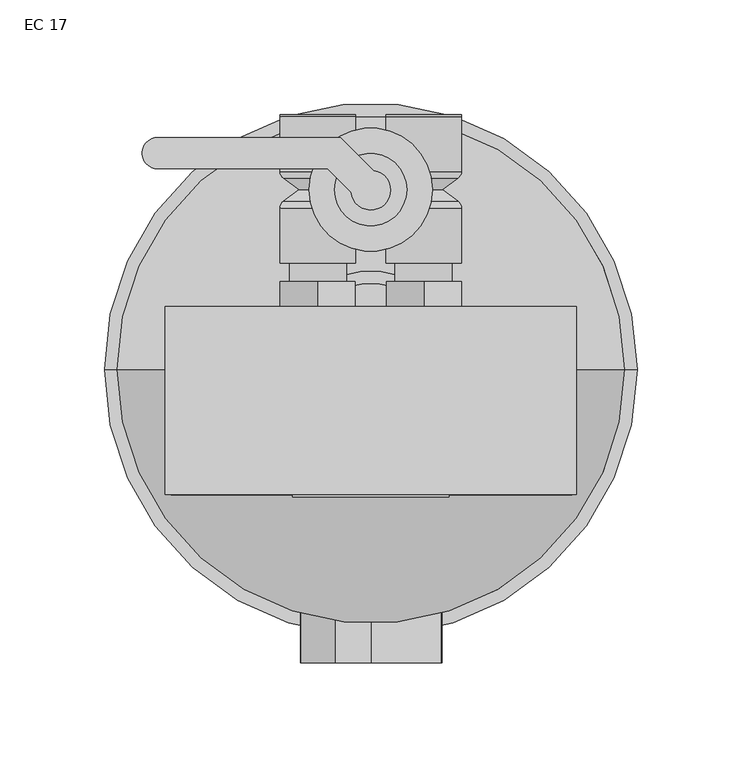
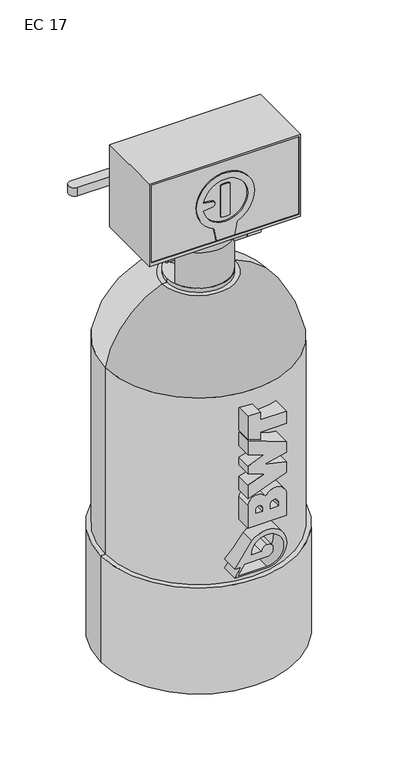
"""IFC4 building model written with IfcOpenShell, lengths in millimetres: flow terminal geometry, BWT_EC : EC 17."""

from ifc_helpers import new_model, si_unit, point, frame, frame_2d, origin, place, context, project, spatial, polyline, circle_curve, ellipse_curve, trimmed, segment, composite_curve, outline, extrude, faceted_brep, source, transform, mapped, element, save
from ifc_brep_helpers import plane_surface, cylinder_surface, revolved_surface, advanced_brep


def ec_17_c5b48052(model_context):
    return source(origin(), model_context, "Body", "SolidModel", [
        advanced_brep(
        [(-25.4198693, 51.0, 526.3500273), (-43.4198693, 51.0, 526.3500273), (-7.4198693, 51.0, 526.3500273), (-7.4198693, 94.749277, 526.3500273), (-43.4198693, 94.749277, 526.3500273), (-43.4198693, 121.0, 526.3500273), (-7.4198693, 121.0, 526.3500273), (-9.0198693, 91.549277, 526.3500273), (-41.8198693, 91.549277, 526.3500273), (-16.4189054, 86.0, 526.3500273), (-34.4208333, 86.0, 526.3500273), (-9.0198693, 80.450723, 526.3500273), (-41.8198693, 80.450723, 526.3500273), (-7.4198693, 77.250723, 526.3500273), (-43.4198693, 77.250723, 526.3500273), (-43.4198693, 122.0, 526.3500273), (-7.4198693, 122.0, 526.3500273)],
        [
            (0, 1),
            (1, 2, circle_curve(frame((-25.4198693, 51.0, 526.3500273), z_axis=(0.0, -1.0, 0.0), x_axis=(-1.0, 0.0, 0.0)), 18.0)),
            (2, 0),
            (2, 1, circle_curve(frame((-25.4198693, 51.0, 526.3500273), z_axis=(0.0, -1.0, 0.0), x_axis=(-1.0, 0.0, 0.0)), 18.0)),
            (3, 4, circle_curve(frame((-25.4198693, 94.749277, 526.3500273), z_axis=(0.0, 1.0, 0.0), x_axis=(-1.0, 0.0, 0.0)), 18.0)),
            (4, 5),
            (5, 6, circle_curve(frame((-25.4198693, 121.0, 526.3500273), z_axis=(0.0, -1.0, 0.0), x_axis=(-1.0, 0.0, 0.0)), 18.0)),
            (6, 3),
            (4, 3, circle_curve(frame((-25.4198693, 94.749277, 526.3500273), z_axis=(0.0, 1.0, 0.0), x_axis=(-1.0, 0.0, 0.0)), 18.0)),
            (6, 5, circle_curve(frame((-25.4198693, 121.0, 526.3500273), z_axis=(0.0, -1.0, 0.0), x_axis=(-1.0, 0.0, 0.0)), 18.0)),
            (3, 7, circle_curve(frame((-11.4198693, 94.749277, 526.3500273), z_axis=(0.0, 0.0, -1.0), x_axis=(-1.0, 0.0, 0.0)), 4.0)),
            (7, 8, circle_curve(frame((-25.4198693, 91.549277, 526.3500273), z_axis=(0.0, 1.0, 0.0), x_axis=(-1.0, 0.0, 0.0)), 16.4)),
            (8, 4, circle_curve(frame((-39.4198693, 94.749277, 526.3500273), z_axis=(0.0, 0.0, -1.0), x_axis=(1.0, 0.0, 0.0)), 4.0)),
            (8, 7, circle_curve(frame((-25.4198693, 91.549277, 526.3500273), z_axis=(0.0, 1.0, 0.0), x_axis=(-1.0, 0.0, 0.0)), 16.4)),
            (7, 9),
            (9, 10, circle_curve(frame((-25.4198693, 86.0, 526.3500273), z_axis=(0.0, 1.0, 0.0), x_axis=(-1.0, 0.0, 0.0)), 9.000964)),
            (10, 8),
            (10, 9, circle_curve(frame((-25.4198693, 86.0, 526.3500273), z_axis=(0.0, 1.0, 0.0), x_axis=(-1.0, 0.0, 0.0)), 9.000964)),
            (9, 11),
            (11, 12, circle_curve(frame((-25.4198693, 80.450723, 526.3500273), z_axis=(0.0, 1.0, 0.0), x_axis=(-1.0, 0.0, 0.0)), 16.4)),
            (12, 10),
            (12, 11, circle_curve(frame((-25.4198693, 80.450723, 526.3500273), z_axis=(0.0, 1.0, 0.0), x_axis=(-1.0, 0.0, 0.0)), 16.4)),
            (11, 13, circle_curve(frame((-11.4198693, 77.250723, 526.3500273), z_axis=(0.0, 0.0, -1.0), x_axis=(-1.0, 0.0, 0.0)), 4.0)),
            (13, 14, circle_curve(frame((-25.4198693, 77.250723, 526.3500273), z_axis=(0.0, 1.0, 0.0), x_axis=(-1.0, 0.0, 0.0)), 18.0)),
            (14, 12, circle_curve(frame((-39.4198693, 77.250723, 526.3500273), z_axis=(0.0, 0.0, -1.0), x_axis=(1.0, 0.0, 0.0)), 4.0)),
            (14, 13, circle_curve(frame((-25.4198693, 77.250723, 526.3500273), z_axis=(0.0, 1.0, 0.0), x_axis=(-1.0, 0.0, 0.0)), 18.0)),
            (1, 14),
            (13, 2),
            (15, 16, circle_curve(frame((-25.4198693, 122.0, 526.3500273), z_axis=(0.0, 1.0, 0.0), x_axis=(-1.0, 0.0, 0.0)), 18.0)),
            (16, 15, circle_curve(frame((-25.4198693, 122.0, 526.3500273), z_axis=(0.0, 1.0, 0.0), x_axis=(-1.0, 0.0, 0.0)), 18.0)),
            (15, 5),
            (6, 16),
        ],
        [
            plane_surface(frame((-25.4198693, 51.0, 526.3500273), z_axis=(0.0, -1.0, 0.0), x_axis=(-1.0, 0.0, 0.0))),
            cylinder_surface(frame((-25.4198693, 152.9623853, 526.3500273), z_axis=(0.0, -1.0, 0.0), x_axis=(-1.0, 0.0, 0.0)), 18.0),
            revolved_surface(trimmed(ellipse_curve(frame((-39.4198693, 94.749277, 526.3500273), z_axis=(0.0, 0.0, 1.0), x_axis=(1.0, 0.0, 0.0)), 4.0, 4.0), [point((-43.4198693, 94.749277, 526.3500273))], [point((-41.8198693, 91.549277, 526.3500273))], True, "CARTESIAN"), (-25.4198693, 152.9623853, 526.3500273), (0.0, -1.0, 0.0)),
            revolved_surface(polyline([(-41.8198693, 91.549277, 526.3500273), (-34.4208333, 86.0, 526.3500273)]), (-25.4198693, 152.9623853, 526.3500273), (0.0, -1.0, 0.0)),
            revolved_surface(polyline([(-34.4208333, 86.0, 526.3500273), (-41.8198693, 80.450723, 526.3500273)]), (-25.4198693, 152.9623853, 526.3500273), (0.0, -1.0, 0.0)),
            revolved_surface(trimmed(ellipse_curve(frame((-39.4198693, 77.250723, 526.3500273), z_axis=(0.0, 0.0, 1.0), x_axis=(1.0, 0.0, 0.0)), 4.0, 4.0), [point((-41.8198693, 80.450723, 526.3500273))], [point((-43.4198693, 77.250723, 526.3500273))], True, "CARTESIAN"), (-25.4198693, 152.9623853, 526.3500273), (0.0, -1.0, 0.0)),
            plane_surface(frame((-43.4198693, 122.0, 526.3500273), z_axis=(0.0, 1.0, 0.0), x_axis=(0.0, 0.0, 1.0))),
            cylinder_surface(frame((-25.4198693, 121.0, 526.3500273), z_axis=(0.0, 1.0, 0.0), x_axis=(-1.0, 0.0, 0.0)), 18.0),
        ],
        [
            (0, [[1, 2, 3]]),
            (0, [[-1, -3, 4]]),
            (1, [[5, 6, 7, 8]]),
            (1, [[-6, 9, -8, 10]]),
            (2, [[-5, 11, 12, 13]]),
            (2, [[-9, -13, 14, -11]]),
            (3, [[-12, 15, 16, 17]]),
            (3, [[-14, -17, 18, -15]]),
            (4, [[-16, 19, 20, 21]]),
            (4, [[-18, -21, 22, -19]]),
            (5, [[-20, 23, 24, 25]]),
            (5, [[-22, -25, 26, -23]]),
            (1, [[-2, 27, -24, 28]]),
            (1, [[-4, -28, -26, -27]]),
            (6, [[29, 30]]),
            (7, [[-29, 31, -10, 32]]),
            (7, [[-30, -32, -7, -31]]),
        ],
    ),
        advanced_brep(
        [(7.3803067, 122.0, 526.3500273), (43.3803067, 122.0, 526.3500273), (7.3803067, 121.0, 526.3500273), (43.3803067, 121.0, 526.3500273), (25.3803067, 51.0, 526.3500273), (7.3803067, 51.0, 526.3500273), (43.3803067, 51.0, 526.3500273), (43.3803067, 94.749277, 526.3500273), (7.3803067, 94.749277, 526.3500273), (41.7803067, 91.549277, 526.3500273), (8.9803067, 91.549277, 526.3500273), (34.3812707, 86.0, 526.3500273), (16.3793427, 86.0, 526.3500273), (41.7803067, 80.450723, 526.3500273), (8.9803067, 80.450723, 526.3500273), (43.3803067, 77.250723, 526.3500273), (7.3803067, 77.250723, 526.3500273)],
        [
            (0, 1, circle_curve(frame((25.3803067, 122.0, 526.3500273), z_axis=(0.0, 1.0, 0.0), x_axis=(-1.0, 0.0, 0.0)), 18.0)),
            (1, 0, circle_curve(frame((25.3803067, 122.0, 526.3500273), z_axis=(0.0, 1.0, 0.0), x_axis=(-1.0, 0.0, 0.0)), 18.0)),
            (0, 2),
            (2, 3, circle_curve(frame((25.3803067, 121.0, 526.3500273), z_axis=(0.0, 1.0, 0.0), x_axis=(-1.0, 0.0, 0.0)), 18.0)),
            (3, 1),
            (3, 2, circle_curve(frame((25.3803067, 121.0, 526.3500273), z_axis=(0.0, 1.0, 0.0), x_axis=(-1.0, 0.0, 0.0)), 18.0)),
            (4, 5),
            (5, 6, circle_curve(frame((25.3803067, 51.0, 526.3500273), z_axis=(0.0, -1.0, 0.0), x_axis=(-1.0, 0.0, 0.0)), 18.0)),
            (6, 4),
            (6, 5, circle_curve(frame((25.3803067, 51.0, 526.3500273), z_axis=(0.0, -1.0, 0.0), x_axis=(-1.0, 0.0, 0.0)), 18.0)),
            (7, 8, circle_curve(frame((25.3803067, 94.749277, 526.3500273), z_axis=(0.0, 1.0, 0.0), x_axis=(-1.0, 0.0, 0.0)), 18.0)),
            (8, 2),
            (3, 7),
            (8, 7, circle_curve(frame((25.3803067, 94.749277, 526.3500273), z_axis=(0.0, 1.0, 0.0), x_axis=(-1.0, 0.0, 0.0)), 18.0)),
            (7, 9, circle_curve(frame((39.3803067, 94.749277, 526.3500273), z_axis=(0.0, 0.0, -1.0), x_axis=(-1.0, 0.0, 0.0)), 4.0)),
            (9, 10, circle_curve(frame((25.3803067, 91.549277, 526.3500273), z_axis=(0.0, 1.0, 0.0), x_axis=(-1.0, 0.0, 0.0)), 16.4)),
            (10, 8, circle_curve(frame((11.3803067, 94.749277, 526.3500273), z_axis=(0.0, 0.0, -1.0), x_axis=(1.0, 0.0, 0.0)), 4.0)),
            (10, 9, circle_curve(frame((25.3803067, 91.549277, 526.3500273), z_axis=(0.0, 1.0, 0.0), x_axis=(-1.0, 0.0, 0.0)), 16.4)),
            (9, 11),
            (11, 12, circle_curve(frame((25.3803067, 86.0, 526.3500273), z_axis=(0.0, 1.0, 0.0), x_axis=(-1.0, 0.0, 0.0)), 9.000964)),
            (12, 10),
            (12, 11, circle_curve(frame((25.3803067, 86.0, 526.3500273), z_axis=(0.0, 1.0, 0.0), x_axis=(-1.0, 0.0, 0.0)), 9.000964)),
            (11, 13),
            (13, 14, circle_curve(frame((25.3803067, 80.450723, 526.3500273), z_axis=(0.0, 1.0, 0.0), x_axis=(-1.0, 0.0, 0.0)), 16.4)),
            (14, 12),
            (14, 13, circle_curve(frame((25.3803067, 80.450723, 526.3500273), z_axis=(0.0, 1.0, 0.0), x_axis=(-1.0, 0.0, 0.0)), 16.4)),
            (13, 15, circle_curve(frame((39.3803067, 77.250723, 526.3500273), z_axis=(0.0, 0.0, -1.0), x_axis=(-1.0, 0.0, 0.0)), 4.0)),
            (15, 16, circle_curve(frame((25.3803067, 77.250723, 526.3500273), z_axis=(0.0, 1.0, 0.0), x_axis=(-1.0, 0.0, 0.0)), 18.0)),
            (16, 14, circle_curve(frame((11.3803067, 77.250723, 526.3500273), z_axis=(0.0, 0.0, -1.0), x_axis=(1.0, 0.0, 0.0)), 4.0)),
            (16, 15, circle_curve(frame((25.3803067, 77.250723, 526.3500273), z_axis=(0.0, 1.0, 0.0), x_axis=(-1.0, 0.0, 0.0)), 18.0)),
            (5, 16),
            (15, 6),
        ],
        [
            plane_surface(frame((-43.4198693, 122.0, 526.3500273), z_axis=(0.0, 1.0, 0.0), x_axis=(0.0, 0.0, 1.0))),
            cylinder_surface(frame((25.3803067, 121.0, 526.3500273), z_axis=(0.0, 1.0, 0.0), x_axis=(-1.0, 0.0, 0.0)), 18.0),
            plane_surface(frame((25.3803067, 51.0, 526.3500273), z_axis=(0.0, -1.0, 0.0), x_axis=(-1.0, 0.0, 0.0))),
            cylinder_surface(frame((25.3803067, 152.9623853, 526.3500273), z_axis=(0.0, -1.0, 0.0), x_axis=(-1.0, 0.0, 0.0)), 18.0),
            revolved_surface(trimmed(ellipse_curve(frame((11.3803067, 94.749277, 526.3500273), z_axis=(0.0, 0.0, 1.0), x_axis=(1.0, 0.0, 0.0)), 4.0, 4.0), [point((7.3803067, 94.749277, 526.3500273))], [point((8.9803067, 91.549277, 526.3500273))], True, "CARTESIAN"), (25.3803067, 152.9623853, 526.3500273), (0.0, -1.0, 0.0)),
            revolved_surface(polyline([(8.9803067, 91.549277, 526.3500273), (16.3793427, 86.0, 526.3500273)]), (25.3803067, 152.9623853, 526.3500273), (0.0, -1.0, 0.0)),
            revolved_surface(polyline([(16.3793427, 86.0, 526.3500273), (8.9803067, 80.450723, 526.3500273)]), (25.3803067, 152.9623853, 526.3500273), (0.0, -1.0, 0.0)),
            revolved_surface(trimmed(ellipse_curve(frame((11.3803067, 77.250723, 526.3500273), z_axis=(0.0, 0.0, 1.0), x_axis=(1.0, 0.0, 0.0)), 4.0, 4.0), [point((8.9803067, 80.450723, 526.3500273))], [point((7.3803067, 77.250723, 526.3500273))], True, "CARTESIAN"), (25.3803067, 152.9623853, 526.3500273), (0.0, -1.0, 0.0)),
        ],
        [
            (0, [[1, 2]]),
            (1, [[-1, 3, 4, 5]]),
            (1, [[-2, -5, 6, -3]]),
            (2, [[7, 8, 9]]),
            (2, [[-7, -9, 10]]),
            (3, [[11, 12, -6, 13]]),
            (3, [[-12, 14, -13, -4]]),
            (4, [[-11, 15, 16, 17]]),
            (4, [[-14, -17, 18, -15]]),
            (5, [[-16, 19, 20, 21]]),
            (5, [[-18, -21, 22, -19]]),
            (6, [[-20, 23, 24, 25]]),
            (6, [[-22, -25, 26, -23]]),
            (7, [[-24, 27, 28, 29]]),
            (7, [[-26, -29, 30, -27]]),
            (3, [[-8, 31, -28, 32]]),
            (3, [[-10, -32, -30, -31]]),
        ],
    ),
        extrude(outline(polyline([(96.2035118, -58.8371146), (-95.5486478, -58.8371146), (-95.5486478, -54.8371146), (96.2035118, -54.8371146), (96.2035118, -58.8371146)])), frame((0.0, 0.0, 573.7939903), z_axis=(0.0, 0.0, 1.0), x_axis=(1.0, 0.0, 0.0)), (0.0, 0.0, 1.0), 106.7326791),
        extrude(outline(polyline([(12.4852191, 565.6531008), (15.7188089, 561.1206461), (13.4103829, 556.0540479), (7.868367, 555.5199043), (4.6347772, 560.052359), (6.9432033, 565.1189573), (12.4852191, 565.6531008)])), frame((61.9425108, 0.0, 0.0), z_axis=(1.0, 0.0, 0.0), x_axis=(0.0, 1.0, 0.0)), (0.0, 0.0, 1.0), 8.5574892),
        advanced_brep(
        [(33.3436037, 10.077573, 560.5846012), (33.3436037, 10.077573, 569.2365171), (33.3436037, 10.077573, 551.9326853), (61.9425108, 10.077573, 551.9326853), (61.9425108, 10.077573, 569.2365171), (61.9425108, 10.077573, 560.5846012)],
        [
            (0, 1),
            (1, 2, circle_curve(frame((33.3436037, 10.077573, 560.5846012), z_axis=(-1.0, 0.0, 0.0), x_axis=(0.0, 0.0, 1.0)), 8.6519159)),
            (2, 0),
            (2, 1, circle_curve(frame((33.3436037, 10.077573, 560.5846012), z_axis=(-1.0, 0.0, 0.0), x_axis=(0.0, 0.0, 1.0)), 8.6519159)),
            (3, 4, circle_curve(frame((61.9425108, 10.077573, 560.5846012), z_axis=(1.0, 0.0, 0.0), x_axis=(0.0, 0.0, 1.0)), 8.6519159)),
            (4, 5),
            (5, 3),
            (4, 3, circle_curve(frame((61.9425108, 10.077573, 560.5846012), z_axis=(1.0, 0.0, 0.0), x_axis=(0.0, 0.0, 1.0)), 8.6519159)),
            (1, 4),
            (3, 2),
        ],
        [
            plane_surface(frame((33.3436037, 10.077573, 560.5846012), z_axis=(-1.0, 0.0, 0.0), x_axis=(0.0, 0.0, 1.0))),
            plane_surface(frame((61.9425108, 10.077573, 560.5846012), z_axis=(1.0, 0.0, 0.0), x_axis=(0.0, 0.0, 1.0))),
            cylinder_surface(frame((49.1268561, 10.077573, 560.5846012), z_axis=(-1.0, 0.0, 0.0), x_axis=(0.0, 0.0, 1.0)), 8.6519159),
        ],
        [
            (0, [[1, 2, 3]]),
            (0, [[-3, 4, -1]]),
            (1, [[5, 6, 7]]),
            (1, [[8, -7, -6]]),
            (2, [[-2, 9, -5, 10]]),
            (2, [[-4, -10, -8, -9]]),
        ],
    ),
        advanced_brep(
        [(16.2211812, 10.077573, 560.5846012), (16.2211812, 10.077573, 565.5240423), (16.2211812, 10.077573, 555.6451601), (33.3436037, 10.077573, 555.6451601), (33.3436037, 10.077573, 565.5240423), (33.3436037, 10.077573, 560.5846012)],
        [
            (0, 1),
            (1, 2, circle_curve(frame((16.2211812, 10.077573, 560.5846012), z_axis=(-1.0, 0.0, 0.0), x_axis=(0.0, 0.0, 1.0)), 4.9394411)),
            (2, 0),
            (2, 1, circle_curve(frame((16.2211812, 10.077573, 560.5846012), z_axis=(-1.0, 0.0, 0.0), x_axis=(0.0, 0.0, 1.0)), 4.9394411)),
            (3, 4, circle_curve(frame((33.3436037, 10.077573, 560.5846012), z_axis=(1.0, 0.0, 0.0), x_axis=(0.0, 0.0, 1.0)), 4.9394411)),
            (4, 5),
            (5, 3),
            (4, 3, circle_curve(frame((33.3436037, 10.077573, 560.5846012), z_axis=(1.0, 0.0, 0.0), x_axis=(0.0, 0.0, 1.0)), 4.9394411)),
            (1, 4),
            (3, 2),
        ],
        [
            plane_surface(frame((16.2211812, 10.077573, 560.5846012), z_axis=(-1.0, 0.0, 0.0), x_axis=(0.0, 0.0, 1.0))),
            plane_surface(frame((33.3436037, 10.077573, 560.5846012), z_axis=(1.0, 0.0, 0.0), x_axis=(0.0, 0.0, 1.0))),
            cylinder_surface(frame((15.7194931, 10.077573, 560.5846012), z_axis=(-1.0, 0.0, 0.0), x_axis=(0.0, 0.0, 1.0)), 4.9394411),
        ],
        [
            (0, [[1, 2, 3]]),
            (0, [[-3, 4, -1]]),
            (1, [[5, 6, 7]]),
            (1, [[8, -7, -6]]),
            (2, [[-2, 9, -5, 10]]),
            (2, [[-4, -10, -8, -9]]),
        ],
    ),
        extrude(outline(composite_curve([segment(polyline([(593.0456784, -15.0), (575.4054042, -11.7297557), (575.4054042, 11.7297557), (593.0456784, 15.0)]), True, "CONTINUOUS"), segment(trimmed(circle_curve(frame_2d((627.4149961, 0.0)), 37.5), [point((593.0456784, 15.0))], [point((593.0456784, -15.0))], False, "CARTESIAN"), True, "CONTINUOUS")], self_intersect=False), holes=[composite_curve([segment(trimmed(circle_curve(frame_2d((627.4149961, 0.0)), 29.0), [point((653.9939352, 11.6))], [point((600.8360571, 11.6))], True, "CARTESIAN"), True, "CONTINUOUS"), segment(trimmed(circle_curve(frame_2d((627.4149961, 0.0)), 29.0), [point((600.8360571, 11.6))], [point((600.8360571, -11.6))], True, "CARTESIAN"), True, "CONTINUOUS"), segment(trimmed(circle_curve(frame_2d((627.4149961, 0.0)), 29.0), [point((600.8360571, -11.6))], [point((621.7488042, -28.4410666))], True, "CARTESIAN"), True, "CONTINUOUS"), segment(polyline([(621.7488042, -28.4410666), (623.4149961, -17.2034068)]), True, "CONTINUOUS"), segment(trimmed(circle_curve(frame_2d((627.4149961, -17.2034068)), 4.0), [point((623.4149961, -17.2034068))], [point((631.4149961, -17.2034068))], False, "CARTESIAN"), True, "CONTINUOUS"), segment(polyline([(631.4149961, -17.2034068), (633.081188, -28.4410666)]), True, "CONTINUOUS"), segment(trimmed(circle_curve(frame_2d((627.4149961, 0.0)), 29.0), [point((633.081188, -28.4410666))], [point((653.9939352, -11.6))], True, "CARTESIAN"), True, "CONTINUOUS"), segment(trimmed(circle_curve(frame_2d((627.4149961, 0.0)), 29.0), [point((653.9939352, -11.6))], [point((653.9939352, 11.6))], True, "CARTESIAN"), True, "CONTINUOUS")], self_intersect=False)]), frame((0.0, -61.1092325, 0.0), z_axis=(0.0, 1.0, 0.0), x_axis=(0.0, 0.0, 1.0)), (0.0, 0.0, 1.0), 6.272118),
        extrude(outline(composite_curve([segment(trimmed(circle_curve(frame_2d((627.4149961, 0.0)), 22.5), [point((649.1002446, 6.0))], [point((649.1002446, -6.0))], False, "CARTESIAN"), True, "CONTINUOUS"), segment(polyline([(649.1002446, -6.0), (605.7297477, -6.0)]), True, "CONTINUOUS"), segment(trimmed(circle_curve(frame_2d((627.4149961, 0.0)), 22.5), [point((605.7297477, -6.0))], [point((605.7297477, 6.0))], False, "CARTESIAN"), True, "CONTINUOUS"), segment(polyline([(605.7297477, 6.0), (649.1002446, 6.0)]), True, "CONTINUOUS")], self_intersect=False)), frame((0.0, -61.1092325, 0.0), z_axis=(0.0, 1.0, 0.0), x_axis=(0.0, 0.0, 1.0)), (0.0, 0.0, 1.0), 6.272118),
        faceted_brep([(-98.4688118, -60.0, 683.0612416), (98.4688118, -60.0, 683.0612416), (98.4688118, 30.0, 683.0612416), (-98.4688118, 30.0, 683.0612416), (-98.4688118, -60.0, 569.8105054), (-98.4688118, 30.0, 569.8105054), (98.4688118, 30.0, 569.8105054), (98.4688118, -60.0, 569.8105054), (-95.5486478, -60.0, 680.5266694), (96.2035118, -60.0, 680.5266694), (96.2035118, -60.0, 573.7939903), (-95.5486478, -60.0, 573.7939903), (-95.5486478, -54.8371146, 680.5266694), (-95.5486478, -54.8371146, 573.7939903), (96.2035118, -54.8371146, 573.7939903), (96.2035118, -54.8371146, 680.5266694)], [[[0, 1, 2, 3]], [[4, 5, 6, 7]], [[1, 0, 4, 7], [8, 9, 10, 11]], [[2, 1, 7, 6]], [[3, 2, 6, 5]], [[0, 3, 5, 4]], [[12, 13, 14, 15]], [[12, 15, 9, 8]], [[15, 14, 10, 9]], [[14, 13, 11, 10]], [[13, 12, 8, 11]]]),
        extrude(outline(composite_curve([segment(polyline([(10.077573, 535.5580398), (3.6925169, 529.1729837), (-13.5373709, 529.1729837), (-19.922427, 535.5580398)]), True, "CONTINUOUS"), segment(trimmed(circle_curve(frame_2d((-19.922427, 540.4974809)), 4.9394411), [point((-19.922427, 535.5580398))], [point((-19.922427, 545.436922))], False, "CARTESIAN"), True, "CONTINUOUS"), segment(polyline([(-19.922427, 545.436922), (-13.5373709, 551.8219781), (3.6925169, 551.8219781), (10.077573, 545.436922)]), True, "CONTINUOUS"), segment(trimmed(circle_curve(frame_2d((10.077573, 540.4974809)), 4.9394411), [point((10.077573, 545.436922))], [point((10.077573, 535.5580398))], False, "CARTESIAN"), True, "CONTINUOUS")], self_intersect=False)), frame((49.3489527, 0.0, 0.0), z_axis=(1.0, 0.0, 0.0), x_axis=(0.0, 1.0, 0.0)), (0.0, 0.0, 1.0), 18.1723162),
        extrude(outline(composite_curve([segment(trimmed(circle_curve(frame_2d((526.29, -25.2442723)), 13.75), [point((526.29, -11.4942723))], [point((526.29, -38.9942723))], False, "CARTESIAN"), True, "CONTINUOUS"), segment(trimmed(circle_curve(frame_2d((526.29, -25.2442723)), 13.75), [point((526.29, -38.9942723))], [point((526.29, -11.4942723))], False, "CARTESIAN"), True, "CONTINUOUS")], self_intersect=False)), frame((0.0, 42.0, 0.0), z_axis=(0.0, 1.0, 0.0), x_axis=(0.0, 0.0, 1.0)), (0.0, 0.0, 1.0), 9.0),
        advanced_brep(
        [(16.2211812, 10.077573, 540.4974809), (16.2211812, 10.077573, 545.436922), (16.2211812, 10.077573, 535.5580398), (49.3489527, 10.077573, 535.5580398), (49.3489527, 10.077573, 545.436922), (49.3489527, 10.077573, 540.4974809)],
        [
            (0, 1),
            (1, 2, circle_curve(frame((16.2211812, 10.077573, 540.4974809), z_axis=(-1.0, 0.0, 0.0), x_axis=(0.0, 0.0, 1.0)), 4.9394411)),
            (2, 0),
            (2, 1, circle_curve(frame((16.2211812, 10.077573, 540.4974809), z_axis=(-1.0, 0.0, 0.0), x_axis=(0.0, 0.0, 1.0)), 4.9394411)),
            (3, 4, circle_curve(frame((49.3489527, 10.077573, 540.4974809), z_axis=(1.0, 0.0, 0.0), x_axis=(0.0, 0.0, 1.0)), 4.9394411)),
            (4, 5),
            (5, 3),
            (4, 3, circle_curve(frame((49.3489527, 10.077573, 540.4974809), z_axis=(1.0, 0.0, 0.0), x_axis=(0.0, 0.0, 1.0)), 4.9394411)),
            (1, 4),
            (3, 2),
        ],
        [
            plane_surface(frame((16.2211812, 10.077573, 540.4974809), z_axis=(-1.0, 0.0, 0.0), x_axis=(0.0, 0.0, 1.0))),
            plane_surface(frame((49.3489527, 10.077573, 540.4974809), z_axis=(1.0, 0.0, 0.0), x_axis=(0.0, 0.0, 1.0))),
            cylinder_surface(frame((15.7194931, 10.077573, 540.4974809), z_axis=(-1.0, 0.0, 0.0), x_axis=(0.0, 0.0, 1.0)), 4.9394411),
        ],
        [
            (0, [[1, 2, 3]]),
            (0, [[-3, 4, -1]]),
            (1, [[5, 6, 7]]),
            (1, [[8, -7, -6]]),
            (2, [[-2, 9, -5, 10]]),
            (2, [[-4, -10, -8, -9]]),
        ],
    ),
        extrude(outline(composite_curve([segment(trimmed(circle_curve(frame_2d((526.29, 25.2244777)), 13.75), [point((526.29, 38.9744777))], [point((526.29, 11.4744777))], False, "CARTESIAN"), True, "CONTINUOUS"), segment(trimmed(circle_curve(frame_2d((526.29, 25.2244777)), 13.75), [point((526.29, 11.4744777))], [point((526.29, 38.9744777))], False, "CARTESIAN"), True, "CONTINUOUS")], self_intersect=False)), frame((0.0, 42.0, 0.0), z_axis=(0.0, 1.0, 0.0), x_axis=(0.0, 0.0, 1.0)), (0.0, 0.0, 1.0), 9.0),
        advanced_brep(
        [(16.2211812, -19.922427, 540.4974809), (16.2211812, -19.922427, 545.436922), (16.2211812, -19.922427, 535.5580398), (49.3489527, -19.922427, 535.5580398), (49.3489527, -19.922427, 545.436922), (49.3489527, -19.922427, 540.4974809)],
        [
            (0, 1),
            (1, 2, circle_curve(frame((16.2211812, -19.922427, 540.4974809), z_axis=(-1.0, 0.0, 0.0), x_axis=(0.0, 0.0, 1.0)), 4.9394411)),
            (2, 0),
            (2, 1, circle_curve(frame((16.2211812, -19.922427, 540.4974809), z_axis=(-1.0, 0.0, 0.0), x_axis=(0.0, 0.0, 1.0)), 4.9394411)),
            (3, 4, circle_curve(frame((49.3489527, -19.922427, 540.4974809), z_axis=(1.0, 0.0, 0.0), x_axis=(0.0, 0.0, 1.0)), 4.9394411)),
            (4, 5),
            (5, 3),
            (4, 3, circle_curve(frame((49.3489527, -19.922427, 540.4974809), z_axis=(1.0, 0.0, 0.0), x_axis=(0.0, 0.0, 1.0)), 4.9394411)),
            (1, 4),
            (3, 2),
        ],
        [
            plane_surface(frame((16.2211812, -19.922427, 540.4974809), z_axis=(-1.0, 0.0, 0.0), x_axis=(0.0, 0.0, 1.0))),
            plane_surface(frame((49.3489527, -19.922427, 540.4974809), z_axis=(1.0, 0.0, 0.0), x_axis=(0.0, 0.0, 1.0))),
            cylinder_surface(frame((15.7194931, -19.922427, 540.4974809), z_axis=(-1.0, 0.0, 0.0), x_axis=(0.0, 0.0, 1.0)), 4.9394411),
        ],
        [
            (0, [[1, 2, 3]]),
            (0, [[-3, 4, -1]]),
            (1, [[5, 6, 7]]),
            (1, [[8, -7, -6]]),
            (2, [[-2, 9, -5, 10]]),
            (2, [[-4, -10, -8, -9]]),
        ],
    ),
        extrude(outline(polyline([(-9.236693, 531.6097607), (-5.3893163, 540.0540912), (3.8473767, 540.9443304), (9.236693, 533.3902393), (5.3893163, 524.9459088), (-3.8473767, 524.0556696), (-9.236693, 531.6097607)])), frame((-49.5, 0.0, 0.0), z_axis=(1.0, 0.0, 0.0), x_axis=(0.0, 1.0, 0.0)), (0.0, 0.0, 1.0), 4.5818966),
        advanced_brep(
        [(-44.9181034, 0.0, 532.5), (-44.9181034, 0.0, 543.25), (-44.9181034, 0.0, 521.75), (-23.5189903, 0.0, 521.75), (-23.5189903, 0.0, 543.25), (-23.5189903, 0.0, 532.5)],
        [
            (0, 1),
            (1, 2, circle_curve(frame((-44.9181034, 0.0, 532.5), z_axis=(-1.0, 0.0, 0.0), x_axis=(0.0, 0.0, 1.0)), 10.75)),
            (2, 0),
            (2, 1, circle_curve(frame((-44.9181034, 0.0, 532.5), z_axis=(-1.0, 0.0, 0.0), x_axis=(0.0, 0.0, 1.0)), 10.75)),
            (3, 4, circle_curve(frame((-23.5189903, 0.0, 532.5), z_axis=(1.0, 0.0, 0.0), x_axis=(0.0, 0.0, 1.0)), 10.75)),
            (4, 5),
            (5, 3),
            (4, 3, circle_curve(frame((-23.5189903, 0.0, 532.5), z_axis=(1.0, 0.0, 0.0), x_axis=(0.0, 0.0, 1.0)), 10.75)),
            (1, 4),
            (3, 2),
        ],
        [
            plane_surface(frame((-44.9181034, 0.0, 532.5), z_axis=(-1.0, 0.0, 0.0), x_axis=(0.0, 0.0, 1.0))),
            plane_surface(frame((-23.5189903, 0.0, 532.5), z_axis=(1.0, 0.0, 0.0), x_axis=(0.0, 0.0, 1.0))),
            cylinder_surface(frame((-54.704096, 0.0, 532.5), z_axis=(-1.0, 0.0, 0.0), x_axis=(0.0, 0.0, 1.0)), 10.75),
        ],
        [
            (0, [[1, 2, 3]]),
            (0, [[-3, 4, -1]]),
            (1, [[5, 6, 7]]),
            (1, [[8, -7, -6]]),
            (2, [[-2, 9, -5, 10]]),
            (2, [[-4, -10, -8, -9]]),
        ],
    ),
        advanced_brep(
        [(25.4, 0.0, 536.1171182), (25.4, 0.0, 516.4628818), (25.4, 0.0, 526.29), (25.4, 4.1055728, 541.0364678), (25.4, 4.1055728, 511.5435322), (25.4, 22.0, 544.29), (25.4, 22.0, 508.29), (25.4, 42.0, 544.29), (25.4, 42.0, 508.29), (25.4, 42.0, 526.29)],
        [
            (0, 1, circle_curve(frame((25.4, 0.0, 526.29), z_axis=(0.0, -1.0, 0.0), x_axis=(0.0, 0.0, -1.0)), 9.8271182)),
            (1, 2),
            (2, 0),
            (1, 0, circle_curve(frame((25.4, 0.0, 526.29), z_axis=(0.0, -1.0, 0.0), x_axis=(0.0, 0.0, -1.0)), 9.8271182)),
            (3, 4, circle_curve(frame((25.4, 4.1055728, 526.29), z_axis=(0.0, -1.0, 0.0), x_axis=(0.0, 0.0, -1.0)), 14.7464678)),
            (4, 1, circle_curve(frame((25.4, 5.0, 516.4628818), z_axis=(-1.0, 0.0, 0.0), x_axis=(0.0, -1.0, 0.0)), 5.0)),
            (0, 3, circle_curve(frame((25.4, 5.0, 536.1171182), z_axis=(-1.0, 0.0, 0.0), x_axis=(0.0, -1.0, 0.0)), 5.0)),
            (4, 3, circle_curve(frame((25.4, 4.1055728, 526.29), z_axis=(0.0, -1.0, 0.0), x_axis=(0.0, 0.0, -1.0)), 14.7464678)),
            (5, 6, circle_curve(frame((25.4, 22.0, 526.29), z_axis=(0.0, -1.0, 0.0), x_axis=(0.0, 0.0, -1.0)), 18.0)),
            (6, 4),
            (3, 5),
            (6, 5, circle_curve(frame((25.4, 22.0, 526.29), z_axis=(0.0, -1.0, 0.0), x_axis=(0.0, 0.0, -1.0)), 18.0)),
            (7, 8, circle_curve(frame((25.4, 42.0, 526.29), z_axis=(0.0, -1.0, 0.0), x_axis=(0.0, 0.0, -1.0)), 18.0)),
            (8, 6),
            (5, 7),
            (8, 7, circle_curve(frame((25.4, 42.0, 526.29), z_axis=(0.0, -1.0, 0.0), x_axis=(0.0, 0.0, -1.0)), 18.0)),
            (9, 8),
            (7, 9),
        ],
        [
            plane_surface(frame((25.4, 0.0, 526.29), z_axis=(0.0, -1.0, 0.0), x_axis=(0.0, 0.0, -1.0))),
            revolved_surface(trimmed(ellipse_curve(frame((25.4, 5.0, 516.4628818), z_axis=(1.0, 0.0, 0.0), x_axis=(0.0, -1.0, 0.0)), 5.0, 5.0), [point((25.4, 0.0, 516.4628818))], [point((25.4, 4.1055728, 511.5435322))], True, "CARTESIAN"), (25.4, 0.0, 526.29), (0.0, 1.0, 0.0)),
            revolved_surface(polyline([(25.4, 4.1055728, 511.5435322), (25.4, 22.0, 508.29)]), (25.4, 0.0, 526.29), (0.0, 1.0, 0.0)),
            cylinder_surface(frame((25.4, 0.0, 526.29), z_axis=(0.0, 1.0, 0.0), x_axis=(0.0, 0.0, -1.0)), 18.0),
            plane_surface(frame((25.4, 42.0, 526.29), z_axis=(0.0, 1.0, 0.0), x_axis=(0.0, 0.0, -1.0))),
        ],
        [
            (0, [[1, 2, 3]]),
            (0, [[4, -3, -2]]),
            (1, [[5, 6, -1, 7]]),
            (1, [[8, -7, -4, -6]]),
            (2, [[9, 10, -5, 11]]),
            (2, [[12, -11, -8, -10]]),
            (3, [[13, 14, -9, 15]]),
            (3, [[16, -15, -12, -14]]),
            (4, [[17, -13, 18]]),
            (4, [[-18, -16, -17]]),
        ],
    ),
        advanced_brep(
        [(-25.4798264, 0.0, 536.1171182), (-25.4798264, 0.0, 516.4628818), (-25.4798264, 0.0, 526.29), (-25.4798264, 4.1055728, 541.0364678), (-25.4798264, 4.1055728, 511.5435322), (-25.4798264, 22.0, 544.29), (-25.4798264, 22.0, 508.29), (-25.4798264, 42.0, 544.29), (-25.4798264, 42.0, 508.29), (-25.4798264, 42.0, 526.29)],
        [
            (0, 1, circle_curve(frame((-25.4798264, 0.0, 526.29), z_axis=(0.0, -1.0, 0.0), x_axis=(0.0, 0.0, -1.0)), 9.8271182)),
            (1, 2),
            (2, 0),
            (1, 0, circle_curve(frame((-25.4798264, 0.0, 526.29), z_axis=(0.0, -1.0, 0.0), x_axis=(0.0, 0.0, -1.0)), 9.8271182)),
            (3, 4, circle_curve(frame((-25.4798264, 4.1055728, 526.29), z_axis=(0.0, -1.0, 0.0), x_axis=(0.0, 0.0, -1.0)), 14.7464678)),
            (4, 1, circle_curve(frame((-25.4798264, 5.0, 516.4628818), z_axis=(-1.0, 0.0, 0.0), x_axis=(0.0, -1.0, 0.0)), 5.0)),
            (0, 3, circle_curve(frame((-25.4798264, 5.0, 536.1171182), z_axis=(-1.0, 0.0, 0.0), x_axis=(0.0, -1.0, 0.0)), 5.0)),
            (4, 3, circle_curve(frame((-25.4798264, 4.1055728, 526.29), z_axis=(0.0, -1.0, 0.0), x_axis=(0.0, 0.0, -1.0)), 14.7464678)),
            (5, 6, circle_curve(frame((-25.4798264, 22.0, 526.29), z_axis=(0.0, -1.0, 0.0), x_axis=(0.0, 0.0, -1.0)), 18.0)),
            (6, 4),
            (3, 5),
            (6, 5, circle_curve(frame((-25.4798264, 22.0, 526.29), z_axis=(0.0, -1.0, 0.0), x_axis=(0.0, 0.0, -1.0)), 18.0)),
            (7, 8, circle_curve(frame((-25.4798264, 42.0, 526.29), z_axis=(0.0, -1.0, 0.0), x_axis=(0.0, 0.0, -1.0)), 18.0)),
            (8, 6),
            (5, 7),
            (8, 7, circle_curve(frame((-25.4798264, 42.0, 526.29), z_axis=(0.0, -1.0, 0.0), x_axis=(0.0, 0.0, -1.0)), 18.0)),
            (9, 8),
            (7, 9),
        ],
        [
            plane_surface(frame((-25.4798264, 0.0, 526.29), z_axis=(0.0, -1.0, 0.0), x_axis=(0.0, 0.0, -1.0))),
            revolved_surface(trimmed(ellipse_curve(frame((-25.4798264, 5.0, 516.4628818), z_axis=(1.0, 0.0, 0.0), x_axis=(0.0, -1.0, 0.0)), 5.0, 5.0), [point((-25.4798264, 0.0, 516.4628818))], [point((-25.4798264, 4.1055728, 511.5435322))], True, "CARTESIAN"), (-25.4798264, 0.0, 526.29), (0.0, 1.0, 0.0)),
            revolved_surface(polyline([(-25.4798264, 4.1055728, 511.5435322), (-25.4798264, 22.0, 508.29)]), (-25.4798264, 0.0, 526.29), (0.0, 1.0, 0.0)),
            cylinder_surface(frame((-25.4798264, 0.0, 526.29), z_axis=(0.0, 1.0, 0.0), x_axis=(0.0, 0.0, -1.0)), 18.0),
            plane_surface(frame((-25.4798264, 42.0, 526.29), z_axis=(0.0, 1.0, 0.0), x_axis=(0.0, 0.0, -1.0))),
        ],
        [
            (0, [[1, 2, 3]]),
            (0, [[4, -3, -2]]),
            (1, [[5, 6, -1, 7]]),
            (1, [[8, -7, -4, -6]]),
            (2, [[9, 10, -5, 11]]),
            (2, [[12, -11, -8, -10]]),
            (3, [[13, 14, -9, 15]]),
            (3, [[16, -15, -12, -14]]),
            (4, [[17, -13, 18]]),
            (4, [[-18, -16, -17]]),
        ],
    ),
        advanced_brep(
        [(-101.8933983, 96.0, 585.29), (-20.6066017, 96.0, 585.29), (-9.4491479, 84.8425462, 585.29), (9.4986096, 85.8374721, 585.29), (1.3684027, 95.238199, 585.29), (-14.3933983, 111.0, 585.29), (-101.8933983, 111.0, 585.29), (-101.8933983, 96.0, 573.79), (-101.8933983, 111.0, 573.79), (-14.3933983, 111.0, 573.79), (1.3684027, 95.238199, 573.79), (-9.5013904, 85.8374721, 573.79), (-9.4491479, 84.8425462, 573.79), (-20.6066017, 96.0, 573.79), (-9.5013904, 85.8374721, 561.2898717), (9.4986096, 85.8374721, 561.2898717)],
        [
            (0, 1),
            (1, 2),
            (2, 3, circle_curve(frame((-0.0013904, 85.8374721, 585.29), z_axis=(0.0, 0.0, 1.0), x_axis=(1.0, 0.0, 0.0)), 9.5)),
            (3, 4, circle_curve(frame((-0.0013904, 85.8374721, 585.29), z_axis=(0.0, 0.0, 1.0), x_axis=(1.0, 0.0, 0.0)), 9.5)),
            (4, 5),
            (5, 6),
            (6, 0, circle_curve(frame((-101.8933983, 103.5, 585.29), z_axis=(0.0, 0.0, 1.0), x_axis=(1.0, 0.0, 0.0)), 7.5)),
            (7, 8, circle_curve(frame((-101.8933983, 103.5, 573.79), z_axis=(0.0, 0.0, -1.0), x_axis=(1.0, 0.0, 0.0)), 7.5)),
            (8, 9),
            (9, 10),
            (10, 11, circle_curve(frame((-0.0013904, 85.8374721, 573.79), z_axis=(0.0, 0.0, 1.0), x_axis=(1.0, 0.0, 0.0)), 9.5)),
            (11, 12, circle_curve(frame((-0.0013904, 85.8374721, 573.79), z_axis=(0.0, 0.0, 1.0), x_axis=(1.0, 0.0, 0.0)), 9.5)),
            (12, 13),
            (13, 7),
            (0, 7),
            (13, 1),
            (12, 2),
            (4, 10),
            (9, 5),
            (8, 6),
            (14, 15, circle_curve(frame((-0.0013904, 85.8374721, 561.2898717), z_axis=(0.0, 0.0, -1.0), x_axis=(1.0, 0.0, 0.0)), 9.5)),
            (15, 14, circle_curve(frame((-0.0013904, 85.8374721, 561.2898717), z_axis=(0.0, 0.0, -1.0), x_axis=(1.0, 0.0, 0.0)), 9.5)),
            (15, 3),
            (11, 14),
        ],
        [
            plane_surface(frame((-101.8933983, 96.0, 585.29), z_axis=(0.0, 0.0, 1.0), x_axis=(1.0, 0.0, 0.0))),
            plane_surface(frame((-101.8933983, 96.0, 573.79), z_axis=(0.0, 0.0, -1.0), x_axis=(-1.0, 0.0, 0.0))),
            plane_surface(frame((-101.8933983, 96.0, 585.29), z_axis=(0.0, -1.0, 0.0), x_axis=(0.0, 0.0, -1.0))),
            plane_surface(frame((-20.6066017, 96.0, 585.29), z_axis=(-0.7071067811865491, -0.707106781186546, 0.0), x_axis=(0.0, 0.0, -1.0))),
            plane_surface(frame((1.3684027, 95.238199, 585.29), z_axis=(0.7071067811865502, 0.7071067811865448, 0.0), x_axis=(0.0, 0.0, -1.0))),
            plane_surface(frame((-14.3933983, 111.0, 585.29), z_axis=(0.0, 1.0, 0.0), x_axis=(0.0, 0.0, -1.0))),
            cylinder_surface(frame((-101.8933983, 103.5, 573.79), z_axis=(0.0, 0.0, 1.0), x_axis=(1.0, 0.0, 0.0)), 7.5),
            plane_surface(frame((9.4986096, 85.8374721, 561.2898717), z_axis=(0.0, 0.0, -1.0), x_axis=(0.0, -1.0, 0.0))),
            cylinder_surface(frame((-0.0013904, 85.8374721, 561.2898717), z_axis=(0.0, 0.0, 1.0), x_axis=(1.0, 0.0, 0.0)), 9.5),
        ],
        [
            (0, [[1, 2, 3, 4, 5, 6, 7]]),
            (1, [[8, 9, 10, 11, 12, 13, 14]]),
            (2, [[-1, 15, -14, 16]]),
            (3, [[-2, -16, -13, 17]]),
            (4, [[-5, 18, -10, 19]]),
            (5, [[-6, -19, -9, 20]]),
            (6, [[-7, -20, -8, -15]]),
            (7, [[21, 22]]),
            (8, [[-22, 23, -3, -17, -12, 24]]),
            (8, [[-21, -24, -11, -18, -4, -23]]),
        ],
    ),
        extrude(outline(composite_curve([segment(trimmed(circle_curve(frame_2d((-0.0624721, 86.03125)), 17.3), [point((-17.3624721, 86.03125))], [point((17.2375279, 86.03125))], False, "CARTESIAN"), True, "CONTINUOUS"), segment(trimmed(circle_curve(frame_2d((-0.0624721, 86.03125)), 17.3), [point((17.2375279, 86.03125))], [point((-17.3624721, 86.03125))], False, "CARTESIAN"), True, "CONTINUOUS")], self_intersect=False)), frame((0.0, 0.0, 547.29), z_axis=(0.0, 0.0, 1.0), x_axis=(1.0, 0.0, 0.0)), (0.0, 0.0, 1.0), 13.9998717),
        extrude(outline(composite_curve([segment(trimmed(circle_curve(frame_2d((0.0, 86.03125)), 29.5), [point((-29.5, 86.03125))], [point((29.5, 86.03125))], False, "CARTESIAN"), True, "CONTINUOUS"), segment(trimmed(circle_curve(frame_2d((0.0, 86.03125)), 29.5), [point((29.5, 86.03125))], [point((-29.5, 86.03125))], False, "CARTESIAN"), True, "CONTINUOUS")], self_intersect=False)), frame((0.0, 0.0, 505.29), z_axis=(0.0, 0.0, 1.0), x_axis=(1.0, 0.0, 0.0)), (0.0, 0.0, 1.0), 3.0),
        extrude(outline(composite_curve([segment(trimmed(circle_curve(frame_2d((0.0, 86.03125)), 29.5), [point((-29.5, 86.03125))], [point((29.5, 86.03125))], False, "CARTESIAN"), True, "CONTINUOUS"), segment(trimmed(circle_curve(frame_2d((0.0, 86.03125)), 29.5), [point((29.5, 86.03125))], [point((-29.5, 86.03125))], False, "CARTESIAN"), True, "CONTINUOUS")], self_intersect=False)), frame((0.0, 0.0, 544.29), z_axis=(0.0, 0.0, 1.0), x_axis=(1.0, 0.0, 0.0)), (0.0, 0.0, 1.0), 3.0),
        advanced_brep(
        [(-33.4319828, -12.0906736, 551.0), (-19.7896662, -7.1252765, 551.0), (-19.7896662, -7.1252765, 497.5), (-38.1304459, -13.8007743, 497.5), (-38.1304459, -13.8007743, 546.0), (33.4319828, -12.0906736, 551.0), (38.1304459, -13.8007743, 546.0), (38.1304459, -13.8007743, 497.5), (19.7896662, -7.1252765, 497.5), (19.7896662, -7.1252765, 551.0)],
        [
            (0, 1),
            (1, 2),
            (2, 3),
            (3, 4),
            (4, 0, circle_curve(frame((-33.4319828, -12.0906736, 546.0), z_axis=(-0.3420201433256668, 0.9396926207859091, 0.0), x_axis=(-0.9396926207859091, -0.3420201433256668, 0.0)), 5.0)),
            (5, 6, circle_curve(frame((33.4319828, -12.0906736, 546.0), z_axis=(0.34202014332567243, 0.939692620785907, 0.0), x_axis=(0.939692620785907, -0.34202014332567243, 0.0)), 5.0)),
            (6, 7),
            (7, 8),
            (8, 9),
            (9, 5),
            (5, 0, circle_curve(frame((0.0, 0.077573, 551.0), z_axis=(0.0, 0.0, -1.0), x_axis=(-0.9396926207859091, -0.3420201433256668, 0.0)), 35.577573)),
            (4, 6, circle_curve(frame((0.0, 0.077573, 546.0), z_axis=(0.0, 0.0, 1.0), x_axis=(-0.9396926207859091, -0.3420201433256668, 0.0)), 40.577573)),
            (3, 7, circle_curve(frame((0.0, 0.077573, 497.5), z_axis=(0.0, 0.0, 1.0), x_axis=(-0.9396926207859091, -0.3420201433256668, 0.0)), 40.577573)),
            (2, 8, circle_curve(frame((0.0, 0.077573, 497.5), z_axis=(0.0, 0.0, 1.0), x_axis=(-0.9396926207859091, -0.3420201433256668, 0.0)), 21.0597229)),
            (1, 9, circle_curve(frame((0.0, 0.077573, 551.0), z_axis=(0.0, 0.0, 1.0), x_axis=(-0.9396926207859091, -0.3420201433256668, 0.0)), 21.0597229)),
        ],
        [
            plane_surface(frame((0.0, 0.077573, 497.5), z_axis=(-0.3420201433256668, 0.9396926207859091, 0.0), x_axis=(-0.9396926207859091, -0.3420201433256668, 0.0))),
            plane_surface(frame((0.0, 0.077573, 497.5), z_axis=(0.3420201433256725, 0.939692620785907, 0.0), x_axis=(0.939692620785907, -0.3420201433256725, 0.0))),
            revolved_surface(trimmed(ellipse_curve(frame((-33.4319828, -12.0906736, 546.0), z_axis=(-0.3420201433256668, 0.9396926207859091, 0.0), x_axis=(-0.9396926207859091, -0.3420201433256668, 0.0)), 5.0, 5.0), [point((-38.1304459, -13.8007743, 546.0))], [point((-33.4319828, -12.0906736, 551.0))], True, "CARTESIAN"), (0.0, 0.077573, 497.5), (0.0, 0.0, 1.0)),
            cylinder_surface(frame((0.0, 0.077573, 497.5), z_axis=(0.0, 0.0, 1.0), x_axis=(-0.9396926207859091, -0.3420201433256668, 0.0)), 40.577573),
            plane_surface(frame((0.0, 0.077573, 497.5), z_axis=(0.0, 0.0, -1.0), x_axis=(-0.9396926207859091, -0.3420201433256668, 0.0))),
            revolved_surface(polyline([(-19.789666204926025, -7.125276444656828, 551.0), (-19.789666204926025, -7.125276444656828, 497.5)]), (0.0, 0.077573, 497.5), (0.0, 0.0, 1.0)),
            plane_surface(frame((0.0, 0.077573, 551.0), z_axis=(0.0, 0.0, 1.0), x_axis=(-0.9396926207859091, -0.3420201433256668, 0.0))),
        ],
        [
            (0, [[1, 2, 3, 4, 5]]),
            (1, [[6, 7, 8, 9, 10]]),
            (2, [[11, -5, 12, -6]]),
            (3, [[-12, -4, 13, -7]]),
            (4, [[-13, -3, 14, -8]]),
            (5, [[-14, -2, 15, -9]]),
            (6, [[-15, -1, -11, -10]]),
        ],
    ),
        extrude(outline(composite_curve([segment(trimmed(circle_curve(frame_2d((0.0, 0.077573)), 41.0), [point((-41.0, 0.077573))], [point((41.0, 0.077573))], False, "CARTESIAN"), True, "CONTINUOUS"), segment(trimmed(circle_curve(frame_2d((0.0, 0.077573)), 41.0), [point((41.0, 0.077573))], [point((-41.0, 0.077573))], False, "CARTESIAN"), True, "CONTINUOUS")], self_intersect=False)), frame((0.0, 0.0, 492.0), z_axis=(0.0, 0.0, 1.0), x_axis=(1.0, 0.0, 0.0)), (0.0, 0.0, 1.0), 5.5),
        extrude(outline(composite_curve([segment(trimmed(circle_curve(frame_2d((0.0, -0.0010747)), 25.0), [point((-25.0, -0.0010747))], [point((25.0, -0.0010747))], False, "CARTESIAN"), True, "CONTINUOUS"), segment(trimmed(circle_curve(frame_2d((0.0, -0.0010747)), 25.0), [point((25.0, -0.0010747))], [point((-25.0, -0.0010747))], False, "CARTESIAN"), True, "CONTINUOUS")], self_intersect=False)), frame((0.0, 0.0, 497.5), z_axis=(0.0, 0.0, 1.0), x_axis=(1.0, 0.0, 0.0)), (0.0, 0.0, 1.0), 72.3105054),
        advanced_brep(
        [(-121.501421, 0.0, 403.0644499), (121.501421, 0.0, 403.0644499), (0.0, 0.0, 403.0644499), (0.0, 0.0, 492.0), (47.0, 0.0, 492.0), (-47.0, 0.0, 492.0)],
        [
            (0, 1, circle_curve(frame((0.0, 0.0, 403.0644499), z_axis=(0.0, 0.0, -1.0), x_axis=(1.0, 0.0, 0.0)), 121.501421)),
            (1, 2),
            (2, 0),
            (1, 0, circle_curve(frame((0.0, 0.0, 403.0644499), z_axis=(0.0, 0.0, -1.0), x_axis=(1.0, 0.0, 0.0)), 121.501421)),
            (3, 4),
            (4, 5, circle_curve(frame((0.0, 0.0, 492.0), z_axis=(0.0, 0.0, 1.0), x_axis=(1.0, 0.0, 0.0)), 47.0)),
            (5, 3),
            (5, 4, circle_curve(frame((0.0, 0.0, 492.0), z_axis=(0.0, 0.0, 1.0), x_axis=(1.0, 0.0, 0.0)), 47.0)),
            (4, 1, circle_curve(frame((6.1708082, 0.0, 382.1245936), z_axis=(0.0, 1.0, 0.0), x_axis=(1.0, 0.0, 0.0)), 117.2161586)),
            (0, 5, circle_curve(frame((-6.1708082, 0.0, 382.1245936), z_axis=(0.0, 1.0, 0.0), x_axis=(-1.0, 0.0, 0.0)), 117.2161586)),
        ],
        [
            plane_surface(frame((0.0, 0.0, 403.0644499), z_axis=(0.0, 0.0, -1.0), x_axis=(1.0, 0.0, 0.0))),
            plane_surface(frame((0.0, 0.0, 492.0), z_axis=(0.0, 0.0, 1.0), x_axis=(1.0, 0.0, 0.0))),
            revolved_surface(trimmed(ellipse_curve(frame((6.1708082, 0.0, 382.1245936), z_axis=(0.0, -1.0, 0.0), x_axis=(1.0, 0.0, 0.0)), 117.2161586, 117.2161586), [point((121.501421, 0.0, 403.0644499))], [point((47.0, 0.0, 492.0))], True, "CARTESIAN"), (0.0, 0.0, 403.1144499), (0.0, 0.0, 1.0)),
        ],
        [
            (0, [[1, 2, 3]]),
            (0, [[4, -3, -2]]),
            (1, [[5, 6, 7]]),
            (1, [[-7, 8, -5]]),
            (2, [[-6, 9, -1, 10]]),
            (2, [[-8, -10, -4, -9]]),
        ],
    ),
        advanced_brep(
        [(127.5, 0.0, 146.0), (-127.5, 0.0, 146.0), (0.0, 0.0, 146.0), (127.5, 0.0, 0.0), (-127.5, 0.0, 0.0), (0.0, 0.0, 0.0)],
        [
            (0, 1, circle_curve(frame((0.0, 0.0, 146.0), z_axis=(0.0, 0.0, 1.0), x_axis=(-1.0, 0.0, 0.0)), 127.5)),
            (1, 2),
            (2, 0),
            (1, 0, circle_curve(frame((0.0, 0.0, 146.0), z_axis=(0.0, 0.0, 1.0), x_axis=(-1.0, 0.0, 0.0)), 127.5)),
            (3, 4, circle_curve(frame((0.0, 0.0, 0.0), z_axis=(0.0, 0.0, 1.0), x_axis=(-1.0, 0.0, 0.0)), 127.5)),
            (4, 1),
            (0, 3),
            (4, 3, circle_curve(frame((0.0, 0.0, 0.0), z_axis=(0.0, 0.0, 1.0), x_axis=(-1.0, 0.0, 0.0)), 127.5)),
            (5, 4),
            (3, 5),
        ],
        [
            plane_surface(frame((0.0, 0.0, 146.0), z_axis=(0.0, 0.0, 1.0), x_axis=(-1.0, 0.0, 0.0))),
            cylinder_surface(frame((0.0, 0.0, 2672.645114), z_axis=(0.0, 0.0, -1.0), x_axis=(-1.0, 0.0, 0.0)), 127.5),
            plane_surface(frame((0.0, 0.0, 0.0), z_axis=(0.0, 0.0, -1.0), x_axis=(-1.0, 0.0, 0.0))),
        ],
        [
            (0, [[1, 2, 3]]),
            (0, [[4, -3, -2]]),
            (1, [[5, 6, -1, 7]]),
            (1, [[8, -7, -4, -6]]),
            (2, [[9, -5, 10]]),
            (2, [[-10, -8, -9]]),
        ],
    ),
        advanced_brep(
        [(121.5, 0.0, 403.1144499), (-121.5, 0.0, 403.1144499), (0.0, 0.0, 403.1144499), (121.5, 0.0, 146.0), (-121.5, 0.0, 146.0), (0.0, 0.0, 146.0)],
        [
            (0, 1, circle_curve(frame((0.0, 0.0, 403.1144499), z_axis=(0.0, 0.0, 1.0), x_axis=(-1.0, 0.0, 0.0)), 121.5)),
            (1, 2),
            (2, 0),
            (1, 0, circle_curve(frame((0.0, 0.0, 403.1144499), z_axis=(0.0, 0.0, 1.0), x_axis=(-1.0, 0.0, 0.0)), 121.5)),
            (3, 4, circle_curve(frame((0.0, 0.0, 146.0), z_axis=(0.0, 0.0, 1.0), x_axis=(-1.0, 0.0, 0.0)), 121.5)),
            (4, 1),
            (0, 3),
            (4, 3, circle_curve(frame((0.0, 0.0, 146.0), z_axis=(0.0, 0.0, 1.0), x_axis=(-1.0, 0.0, 0.0)), 121.5)),
            (5, 4),
            (3, 5),
        ],
        [
            plane_surface(frame((0.0, 0.0, 403.1144499), z_axis=(0.0, 0.0, 1.0), x_axis=(-1.0, 0.0, 0.0))),
            cylinder_surface(frame((0.0, 0.0, 2672.645114), z_axis=(0.0, 0.0, -1.0), x_axis=(-1.0, 0.0, 0.0)), 121.5),
            plane_surface(frame((0.0, 0.0, 146.0), z_axis=(0.0, 0.0, -1.0), x_axis=(-1.0, 0.0, 0.0))),
        ],
        [
            (0, [[1, 2, 3]]),
            (0, [[4, -3, -2]]),
            (1, [[5, 6, -1, 7]]),
            (1, [[8, -7, -4, -6]]),
            (2, [[9, -5, 10]]),
            (2, [[-10, -8, -9]]),
        ],
    ),
        extrude(outline(composite_curve([segment(polyline([(166.9999792, -33.6000005), (166.9999792, 9.8870192)]), True, "CONTINUOUS"), segment(trimmed(circle_curve(frame_2d((193.0964441, 7.941375)), 26.168894), [point((166.9999792, 9.8870192))], [point((210.9479769, -11.1932477))], False, "CARTESIAN"), True, "CONTINUOUS"), segment(polyline([(210.9479769, -11.1932477), (179.2986355, -33.4100735), (179.2986355, -25.8925527), (166.9999792, -33.6000005)]), True, "CONTINUOUS")], self_intersect=False), holes=[composite_curve([segment(polyline([(169.1557255, -28.6769151), (182.0900813, -20.5710665), (182.0900813, 8.3999998)]), True, "CONTINUOUS"), segment(trimmed(circle_curve(frame_2d((190.592173, 8.3999998)), 8.5020916), [point((182.0900813, 8.3999998))], [point((199.0942646, 8.3999998))], False, "CARTESIAN"), True, "CONTINUOUS"), segment(trimmed(circle_curve(frame_2d((192.0222272, 8.3999998)), 7.0720374), [point((199.0942646, 8.3999998))], [point((191.7908381, 1.3317488))], False, "CARTESIAN"), True, "CONTINUOUS"), segment(polyline([(191.7908381, 1.3317488), (191.7908381, -12.0442377)]), True, "CONTINUOUS"), segment(trimmed(circle_curve(frame_2d((191.7908381, 8.3999998)), 20.4442375), [point((191.7908381, -12.0442377))], [point((212.2350756, 8.3999998))], True, "CARTESIAN"), True, "CONTINUOUS"), segment(trimmed(circle_curve(frame_2d((190.6954005, 8.3999998)), 21.539675), [point((212.2350756, 8.3999998))], [point((169.1557255, 8.3999998))], True, "CARTESIAN"), True, "CONTINUOUS"), segment(polyline([(169.1557255, 8.3999998), (169.1557255, -28.6769151)]), True, "CONTINUOUS")], self_intersect=False)]), frame((0.0, -140.5, 0.0), z_axis=(0.0, 1.0, 0.0), x_axis=(0.0, 0.0, 1.0)), (0.0, 0.0, 1.0), 40.5),
        extrude(outline(composite_curve([segment(polyline([(230.0, -16.8000009), (230.0, 33.6000005), (262.1124934, 33.6000005)]), True, "CONTINUOUS"), segment(trimmed(circle_curve(frame_2d((259.3363707, 19.3494757)), 14.518413), [point((262.1124934, 33.6000005))], [point((265.6999779, 6.2999999))], False, "CARTESIAN"), True, "CONTINUOUS"), segment(trimmed(circle_curve(frame_2d((259.2398825, -4.4902269)), 12.5762405), [point((265.6999779, 6.2999999))], [point((261.8150115, -16.8000009))], False, "CARTESIAN"), True, "CONTINUOUS"), segment(polyline([(261.8150115, -16.8000009), (230.0, -16.8000009)]), True, "CONTINUOUS")], self_intersect=False), holes=[composite_curve([segment(polyline([(246.799992, 23.1000004), (246.799992, 12.5999997), (252.0499971, 12.5999997)]), True, "CONTINUOUS"), segment(trimmed(circle_curve(frame_2d((252.0499971, 17.8500001)), 5.2500004), [point((252.0499971, 12.5999997))], [point((252.0499971, 23.1000004))], True, "CARTESIAN"), True, "CONTINUOUS"), segment(polyline([(252.0499971, 23.1000004), (246.799992, 23.1000004)]), True, "CONTINUOUS")], self_intersect=False), composite_curve([segment(polyline([(246.799992, -6.3000008), (251.5249885, -6.3000008)]), True, "CONTINUOUS"), segment(trimmed(circle_curve(frame_2d((251.5249885, -2.1000006)), 4.2000002), [point((251.5249885, -6.3000008))], [point((251.5249885, 2.0999996))], True, "CARTESIAN"), True, "CONTINUOUS"), segment(polyline([(251.5249885, 2.0999996), (246.799992, 2.0999996), (246.799992, -6.3000008)]), True, "CONTINUOUS")], self_intersect=False)]), frame((0.0, -140.5, 0.0), z_axis=(0.0, 1.0, 0.0), x_axis=(0.0, 0.0, 1.0)), (0.0, 0.0, 1.0), 40.5),
        extrude(outline(polyline([(270.4250151, -16.8000009), (289.325001, 33.6000005), (304.024999, 33.6000005), (310.3249808, 5.2499997), (316.6250032, 33.6000005), (331.3250013, 33.6000005), (350.2249872, -16.8000009), (331.3250013, -16.8000009), (323.4499936, 4.1999999), (315.5749859, -16.8000009), (305.0750163, -16.8000009), (297.2000087, 4.1999999), (289.325001, -16.8000009), (270.4250151, -16.8000009)])), frame((0.0, -140.5, 0.0), z_axis=(0.0, 1.0, 0.0), x_axis=(0.0, 0.0, 1.0)), (0.0, 0.0, 1.0), 40.5),
        extrude(outline(polyline([(346.0249994, 0.0), (356.5250096, 0.0), (356.5250096, 33.6000005), (373.3250016, 33.6000005), (373.3250016, 0.0), (383.8250119, 0.0), (383.8250119, -16.8000009), (352.3249811, -16.8000009), (346.0249994, 0.0)])), frame((0.0, -140.5, 0.0), z_axis=(0.0, 1.0, 0.0), x_axis=(0.0, 0.0, 1.0)), (0.0, 0.0, 1.0), 40.5),
    ])


if __name__ == "__main__":
    model = new_model("IFC4")
    model_context = context("Model", 3, world=origin())
    ifc_project = project(units=[si_unit("LENGTHUNIT", "METRE", prefix="MILLI")], contexts=[model_context])
    site = spatial("IfcSite", under=ifc_project)
    building = spatial("IfcBuilding", under=site)
    placement = place(None, origin())
    ec_17_shape = ec_17_c5b48052(model_context)
    element("IfcFlowTerminal", 1, ObjectType="BWT_EC : EC 17", at=placement, inside=building, context=model_context, shape_type="MappedRepresentation", body=[
        mapped(ec_17_shape, transform((0.0, 0.0, 0.0), x_axis=(1.0, 0.0, 0.0), y_axis=(0.0, 1.0, 0.0), z_axis=(0.0, 0.0, 1.0))),
    ])
    save(model, "model.ifc")
